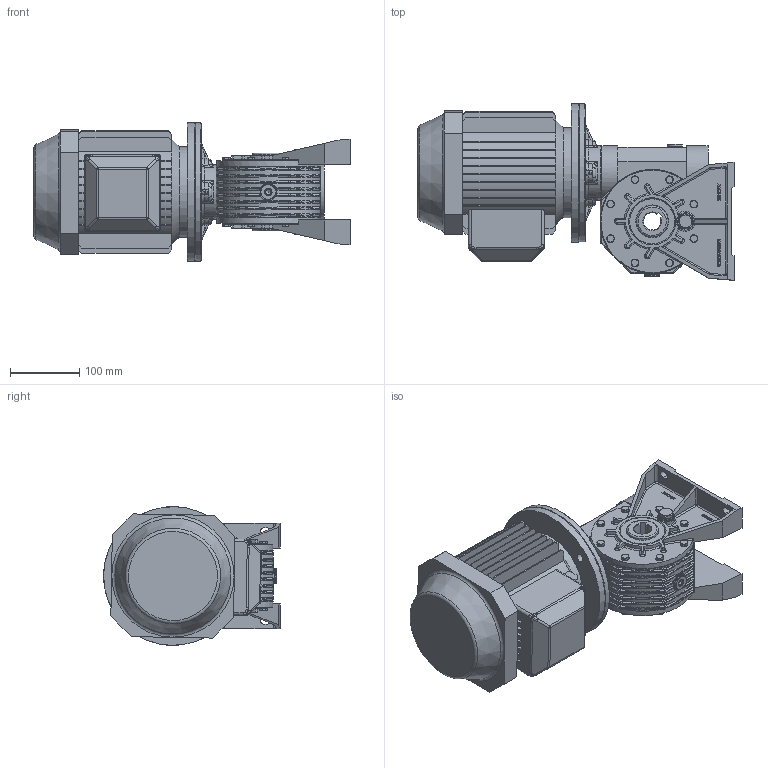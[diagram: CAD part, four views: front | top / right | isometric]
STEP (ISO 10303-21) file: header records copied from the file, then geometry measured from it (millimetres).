
FILE_DESCRIPTION((''),'2;1');
FILE_NAME('Y:\Archivi Inventor\Prog_01\GRAND_30\Figurini\MRV30 sito\90s\MRV30_P3_90s_B5.stp','2013-02-06T11:08:03',('tech3'),(''),'Autodesk Inventor 2013','Autodesk Inventor 2013','');
FILE_SCHEMA(('AUTOMOTIVE_DESIGN { 1 0 10303 214 1 1 1 1 }'));
Length unit declared in the file: millimetre
Products named in the file (16): MRV30_90s_90L; MRV30; 0103001-A2 fig; 0103008.A1 fig F=25; PARAOLIO 45x65x10; RCA_52x7; Guarnizione 3_8 GAS; Tappo 3_8 GAS_esagn_incsst; 0103010-A0 fig; 0103029; DIN EN 24017 M6 x 20; Tappo3_8 GAS; 0103028; UNI 5931 M 8 x  25; 0103006; motori B5 90S
Assembly tree (41 placements, depth 3):
  MRV30_90s_90L
    MRV30
      0103001-A2 fig
      0103008.A1 fig F=25
      PARAOLIO 45x65x10  x2
      RCA_52x7
      Guarnizione 3_8 GAS  x4
      Tappo 3_8 GAS_esagn_incsst  x2
      0103010-A0 fig  x2
      0103029  x2
      DIN EN 24017 M6 x 20  x16
      Tappo3_8 GAS  x2
      0103028
      UNI 5931 M 8 x  25  x4
    0103006
    motori B5 90S
Bounding box: 455.9 x 254.98 x 199.97 mm (x, y, z)
Volume: 7345253.4 mm3; surface area: 896596.4 mm2
Topology: 40 solids, 43 shells, 2622 faces, 6474 edges, 3998 vertices
Faces by surface type: plane 1304, cylinder 653, bspline 312, torus 161, cone 160, sphere 32
Full cylindrical faces by diameter (mm): 2 x2, 4.917 x16, 6 x16, 6.5 x32, 6.647 x4, 8 x6, 8.5 x8, 8.88 x16, 11 x16, 12 x4, 13 x4, 13.046 x2, 14.95 x4, 16.3 x4, 16.5 x2, 22 x8, 24 x1, 25 x3, 43 x1, 45 x4, 45.76 x1, 50.881 x2, 52 x6, 55 x1, 60.5 x2, 65 x4, 75 x2, 77 x1, 78 x1, 79 x1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
Entity records: 60833 total; most frequent: CARTESIAN_POINT 19515, ORIENTED_EDGE 8290, DIRECTION 8122, EDGE_CURVE 4145, AXIS2_PLACEMENT_3D 2948, VERTEX_POINT 2664, VECTOR 2226, LINE 2226
